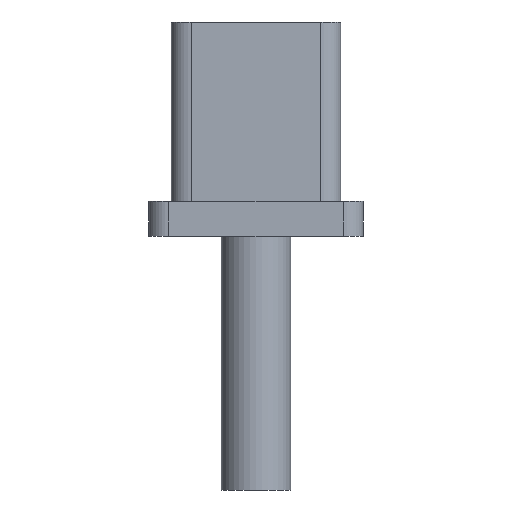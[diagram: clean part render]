
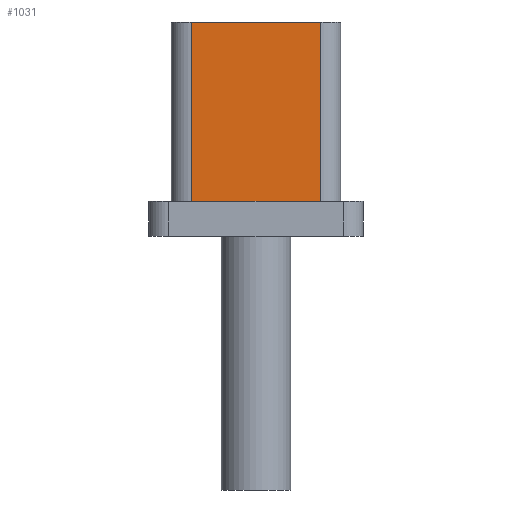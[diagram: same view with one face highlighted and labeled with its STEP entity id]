
A CAD part, front view. The second image highlights one B-rep face of the part: STEP entity #1031.
In plain terms, the highlighted planar face has unit normal (0, -1, 0).
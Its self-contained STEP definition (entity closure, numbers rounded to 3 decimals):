
#44 = PLANE('',#45);
#45 = AXIS2_PLACEMENT_3D('',#46,#47,#48);
#46 = CARTESIAN_POINT('',(14.258,26.521,23.9));
#47 = DIRECTION('',(0.,0.,1.));
#48 = DIRECTION('',(1.,0.,0.));
#343 = VERTEX_POINT('',#344);
#344 = CARTESIAN_POINT('',(15.958,27.421,23.9));
#359 = CYLINDRICAL_SURFACE('',#360,0.8);
#360 = AXIS2_PLACEMENT_3D('',#361,#362,#363);
#361 = CARTESIAN_POINT('',(15.958,28.221,23.9));
#362 = DIRECTION('',(0.,0.,1.));
#363 = DIRECTION('',(-1.,-0.,0.));
#518 = VERTEX_POINT('',#519);
#519 = CARTESIAN_POINT('',(21.158,27.421,23.9));
#538 = CYLINDRICAL_SURFACE('',#539,0.8);
#539 = AXIS2_PLACEMENT_3D('',#540,#541,#542);
#540 = CARTESIAN_POINT('',(21.158,28.221,23.9));
#541 = DIRECTION('',(0.,0.,1.));
#542 = DIRECTION('',(1.,0.,-0.));
#550 = EDGE_CURVE('',#343,#518,#551,.T.);
#551 = SURFACE_CURVE('',#552,(#556,#563),.PCURVE_S1.);
#552 = LINE('',#553,#554);
#553 = CARTESIAN_POINT('',(15.158,27.421,23.9));
#554 = VECTOR('',#555,1.);
#555 = DIRECTION('',(1.,0.,0.));
#556 = PCURVE('',#44,#557);
#557 = DEFINITIONAL_REPRESENTATION('',(#558),#562);
#558 = LINE('',#559,#560);
#559 = CARTESIAN_POINT('',(0.9,0.9));
#560 = VECTOR('',#561,1.);
#561 = DIRECTION('',(1.,0.));
#562 = ( GEOMETRIC_REPRESENTATION_CONTEXT(2) 
PARAMETRIC_REPRESENTATION_CONTEXT() REPRESENTATION_CONTEXT('2D SPACE',''
  ) );
#563 = PCURVE('',#564,#569);
#564 = PLANE('',#565);
#565 = AXIS2_PLACEMENT_3D('',#566,#567,#568);
#566 = CARTESIAN_POINT('',(15.158,27.421,23.9));
#567 = DIRECTION('',(0.,1.,0.));
#568 = DIRECTION('',(0.,0.,1.));
#569 = DEFINITIONAL_REPRESENTATION('',(#570),#574);
#570 = LINE('',#571,#572);
#571 = CARTESIAN_POINT('',(0.,0.));
#572 = VECTOR('',#573,1.);
#573 = DIRECTION('',(0.,1.));
#574 = ( GEOMETRIC_REPRESENTATION_CONTEXT(2) 
PARAMETRIC_REPRESENTATION_CONTEXT() REPRESENTATION_CONTEXT('2D SPACE',''
  ) );
#959 = EDGE_CURVE('',#343,#960,#962,.T.);
#960 = VERTEX_POINT('',#961);
#961 = CARTESIAN_POINT('',(15.958,27.421,31.1));
#962 = SURFACE_CURVE('',#963,(#967,#974),.PCURVE_S1.);
#963 = LINE('',#964,#965);
#964 = CARTESIAN_POINT('',(15.958,27.421,23.9));
#965 = VECTOR('',#966,1.);
#966 = DIRECTION('',(0.,0.,1.));
#967 = PCURVE('',#359,#968);
#968 = DEFINITIONAL_REPRESENTATION('',(#969),#973);
#969 = LINE('',#970,#971);
#970 = CARTESIAN_POINT('',(1.571,0.));
#971 = VECTOR('',#972,1.);
#972 = DIRECTION('',(0.,1.));
#973 = ( GEOMETRIC_REPRESENTATION_CONTEXT(2) 
PARAMETRIC_REPRESENTATION_CONTEXT() REPRESENTATION_CONTEXT('2D SPACE',''
  ) );
#974 = PCURVE('',#564,#975);
#975 = DEFINITIONAL_REPRESENTATION('',(#976),#980);
#976 = LINE('',#977,#978);
#977 = CARTESIAN_POINT('',(0.,0.8));
#978 = VECTOR('',#979,1.);
#979 = DIRECTION('',(1.,0.));
#980 = ( GEOMETRIC_REPRESENTATION_CONTEXT(2) 
PARAMETRIC_REPRESENTATION_CONTEXT() REPRESENTATION_CONTEXT('2D SPACE',''
  ) );
#999 = PLANE('',#1000);
#1000 = AXIS2_PLACEMENT_3D('',#1001,#1002,#1003);
#1001 = CARTESIAN_POINT('',(15.158,27.421,31.1));
#1002 = DIRECTION('',(0.,0.,1.));
#1003 = DIRECTION('',(1.,0.,0.));
#1031 = ADVANCED_FACE('',(#1032),#564,.F.);
#1032 = FACE_BOUND('',#1033,.F.);
#1033 = EDGE_LOOP('',(#1034,#1035,#1036,#1059));
#1034 = ORIENTED_EDGE('',*,*,#550,.F.);
#1035 = ORIENTED_EDGE('',*,*,#959,.T.);
#1036 = ORIENTED_EDGE('',*,*,#1037,.T.);
#1037 = EDGE_CURVE('',#960,#1038,#1040,.T.);
#1038 = VERTEX_POINT('',#1039);
#1039 = CARTESIAN_POINT('',(21.158,27.421,31.1));
#1040 = SURFACE_CURVE('',#1041,(#1045,#1052),.PCURVE_S1.);
#1041 = LINE('',#1042,#1043);
#1042 = CARTESIAN_POINT('',(15.158,27.421,31.1));
#1043 = VECTOR('',#1044,1.);
#1044 = DIRECTION('',(1.,0.,0.));
#1045 = PCURVE('',#564,#1046);
#1046 = DEFINITIONAL_REPRESENTATION('',(#1047),#1051);
#1047 = LINE('',#1048,#1049);
#1048 = CARTESIAN_POINT('',(7.2,0.));
#1049 = VECTOR('',#1050,1.);
#1050 = DIRECTION('',(0.,1.));
#1051 = ( GEOMETRIC_REPRESENTATION_CONTEXT(2) 
PARAMETRIC_REPRESENTATION_CONTEXT() REPRESENTATION_CONTEXT('2D SPACE',''
  ) );
#1052 = PCURVE('',#999,#1053);
#1053 = DEFINITIONAL_REPRESENTATION('',(#1054),#1058);
#1054 = LINE('',#1055,#1056);
#1055 = CARTESIAN_POINT('',(0.,0.));
#1056 = VECTOR('',#1057,1.);
#1057 = DIRECTION('',(1.,0.));
#1058 = ( GEOMETRIC_REPRESENTATION_CONTEXT(2) 
PARAMETRIC_REPRESENTATION_CONTEXT() REPRESENTATION_CONTEXT('2D SPACE',''
  ) );
#1059 = ORIENTED_EDGE('',*,*,#1060,.F.);
#1060 = EDGE_CURVE('',#518,#1038,#1061,.T.);
#1061 = SURFACE_CURVE('',#1062,(#1066,#1073),.PCURVE_S1.);
#1062 = LINE('',#1063,#1064);
#1063 = CARTESIAN_POINT('',(21.158,27.421,23.9));
#1064 = VECTOR('',#1065,1.);
#1065 = DIRECTION('',(0.,0.,1.));
#1066 = PCURVE('',#564,#1067);
#1067 = DEFINITIONAL_REPRESENTATION('',(#1068),#1072);
#1068 = LINE('',#1069,#1070);
#1069 = CARTESIAN_POINT('',(0.,6.));
#1070 = VECTOR('',#1071,1.);
#1071 = DIRECTION('',(1.,0.));
#1072 = ( GEOMETRIC_REPRESENTATION_CONTEXT(2) 
PARAMETRIC_REPRESENTATION_CONTEXT() REPRESENTATION_CONTEXT('2D SPACE',''
  ) );
#1073 = PCURVE('',#538,#1074);
#1074 = DEFINITIONAL_REPRESENTATION('',(#1075),#1079);
#1075 = LINE('',#1076,#1077);
#1076 = CARTESIAN_POINT('',(-1.571,0.));
#1077 = VECTOR('',#1078,1.);
#1078 = DIRECTION('',(-0.,1.));
#1079 = ( GEOMETRIC_REPRESENTATION_CONTEXT(2) 
PARAMETRIC_REPRESENTATION_CONTEXT() REPRESENTATION_CONTEXT('2D SPACE',''
  ) );
